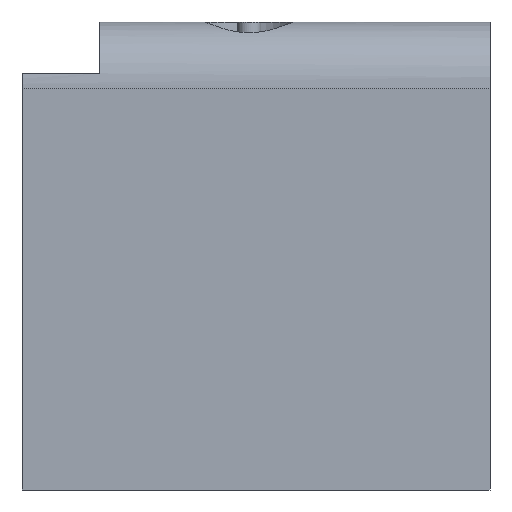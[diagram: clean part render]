
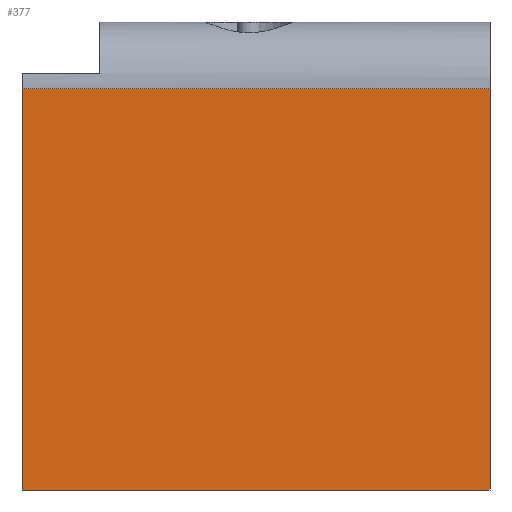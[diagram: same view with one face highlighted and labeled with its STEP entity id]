
A CAD part, front view. The second image highlights one B-rep face of the part: STEP entity #377.
In plain terms, the highlighted planar face has unit normal (0, -1, 0).
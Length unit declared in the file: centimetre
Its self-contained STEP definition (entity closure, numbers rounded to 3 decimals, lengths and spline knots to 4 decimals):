
#3 = ORIENTED_EDGE ( 'NONE', *, *, #1178, .F. ) ;
#25 = VECTOR ( 'NONE', #287, 100. ) ;
#62 = DIRECTION ( 'NONE',  ( 0., 0., -1. ) ) ;
#82 = CARTESIAN_POINT ( 'NONE',  ( 0., 0., 857.526 ) ) ;
#179 = CARTESIAN_POINT ( 'NONE',  ( 0., 0., 1000. ) ) ;
#213 = CARTESIAN_POINT ( 'NONE',  ( 0., 0., 0. ) ) ;
#253 = CARTESIAN_POINT ( 'NONE',  ( 1000., 0., 857.526 ) ) ;
#287 = DIRECTION ( 'NONE',  ( 1., 0., 0. ) ) ;
#325 = CARTESIAN_POINT ( 'NONE',  ( 1000., 0., 1000. ) ) ;
#369 = AXIS2_PLACEMENT_3D ( 'NONE', #179, #510, #622 ) ;
#377 = ADVANCED_FACE ( 'NONE', ( #516 ), #833, .F. ) ;
#401 = EDGE_CURVE ( 'NONE', #465, #921, #1065, .T. ) ;
#420 = DIRECTION ( 'NONE',  ( 0., 0., -1. ) ) ;
#460 = VECTOR ( 'NONE', #978, 100. ) ;
#465 = VERTEX_POINT ( 'NONE', #1085 ) ;
#496 = CARTESIAN_POINT ( 'NONE',  ( 0., 0., 1000. ) ) ;
#506 = CARTESIAN_POINT ( 'NONE',  ( 0., 0., 0. ) ) ;
#510 = DIRECTION ( 'NONE',  ( 0., 1., 0. ) ) ;
#514 = LINE ( 'NONE', #506, #25 ) ;
#516 = FACE_OUTER_BOUND ( 'NONE', #761, .T. ) ;
#517 = EDGE_CURVE ( 'NONE', #610, #465, #1203, .T. ) ;
#552 = VECTOR ( 'NONE', #62, 100. ) ;
#554 = LINE ( 'NONE', #325, #698 ) ;
#610 = VERTEX_POINT ( 'NONE', #253 ) ;
#622 = DIRECTION ( 'NONE',  ( 0., 0., 1. ) ) ;
#698 = VECTOR ( 'NONE', #420, 100. ) ;
#749 = EDGE_CURVE ( 'NONE', #921, #1014, #514, .T. ) ;
#761 = EDGE_LOOP ( 'NONE', ( #3, #840, #1406, #1245 ) ) ;
#833 = PLANE ( 'NONE',  #369 ) ;
#840 = ORIENTED_EDGE ( 'NONE', *, *, #517, .T. ) ;
#921 = VERTEX_POINT ( 'NONE', #213 ) ;
#978 = DIRECTION ( 'NONE',  ( -1., 0., 0. ) ) ;
#1014 = VERTEX_POINT ( 'NONE', #1348 ) ;
#1065 = LINE ( 'NONE', #496, #552 ) ;
#1085 = CARTESIAN_POINT ( 'NONE',  ( 0., 0., 857.526 ) ) ;
#1178 = EDGE_CURVE ( 'NONE', #610, #1014, #554, .T. ) ;
#1203 = LINE ( 'NONE', #82, #460 ) ;
#1245 = ORIENTED_EDGE ( 'NONE', *, *, #749, .T. ) ;
#1348 = CARTESIAN_POINT ( 'NONE',  ( 1000., 0., 0. ) ) ;
#1406 = ORIENTED_EDGE ( 'NONE', *, *, #401, .T. ) ;
